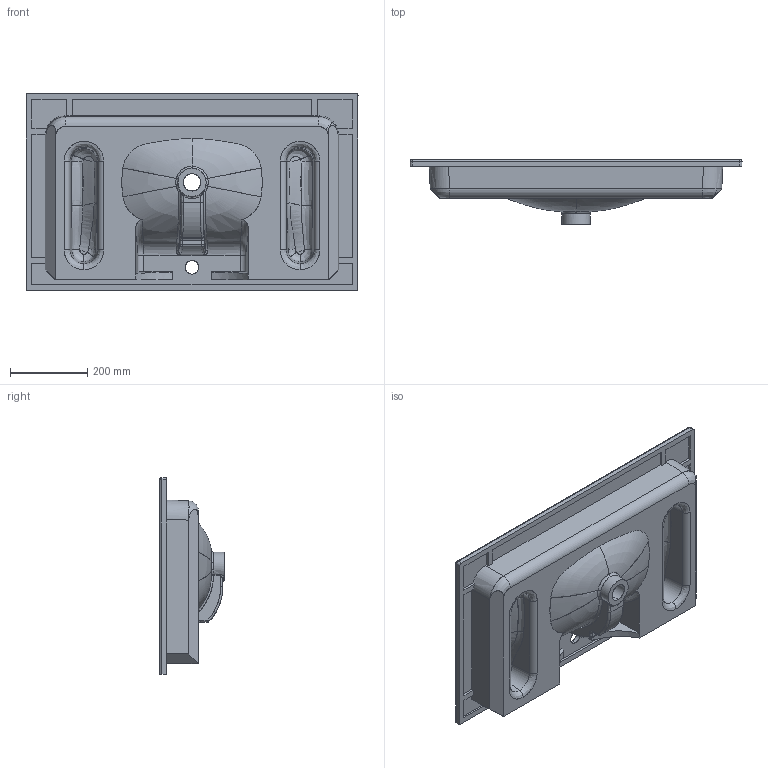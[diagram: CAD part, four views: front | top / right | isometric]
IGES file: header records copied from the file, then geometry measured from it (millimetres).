
Start section: SolidWorks IGES file using NURBS representation for surfaces
Global section: file name: C:\Users\User\Desktop\Soft\lavabi definitivi soft 51 m\soft 860 x 515\definitivo soft 860 x 515.IGS; native system: SolidWorks 2016; preprocessor: SolidWorks 2016; author: User; date: 200629.172607; units: millimetre
Bounding box: 860 x 168 x 510 mm (x, y, z)
Surface area: 1286704.8 mm2 (no closed solid volume)
Topology: 0 solids, 0 shells, 204 faces, 4519 edges, 4511 vertices
Faces by surface type: bspline 204
